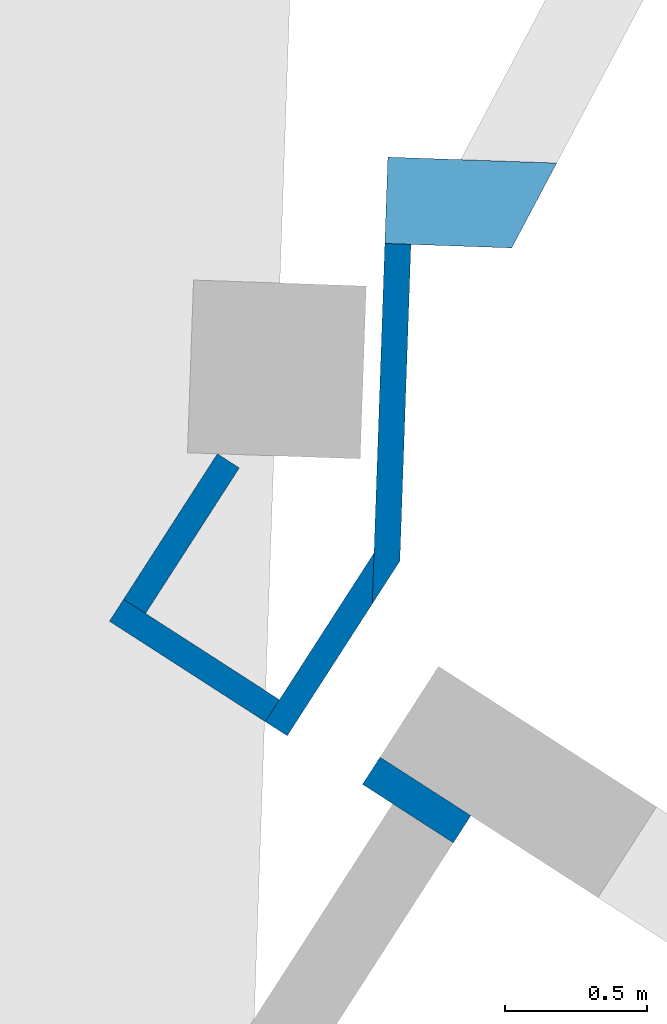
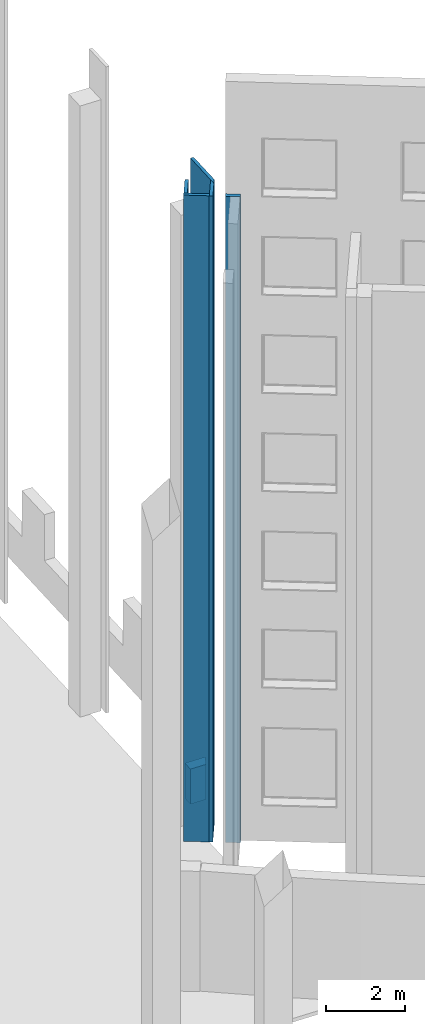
# One storey, part 27 of 44: 6 walls.
"""IFC2X3 building model written with IfcOpenShell, lengths in feet."""

from ifc_helpers import new_model, entity, si_unit, converted_unit, derived_unit, direction, frame, frame_2d, origin, place, context, subcontext, project, spatial, polyline, rectangle, outline, extrude, material, layer, layer_set, layer_usage, type_object, element, save


model = new_model("IFC2X3")

# Units and contexts
model_context = context("Model", 3, precision=0.0001, world=origin(), true_north=direction((0.999390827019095, 0.0348994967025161)))
body_context = subcontext(model_context, "Body", "Model", "MODEL_VIEW")
ifc_project = project(units=[converted_unit("LENGTHUNIT", "FOOT", entity("IfcRatioMeasure", 0.3048), si_unit("LENGTHUNIT", "METRE"), dimensions=[1, 0, 0, 0, 0, 0, 0]), converted_unit("AREAUNIT", "SQUARE FOOT", entity("IfcRatioMeasure", 0.09290304), si_unit("AREAUNIT", "SQUARE_METRE"), dimensions=[2, 0, 0, 0, 0, 0, 0]), converted_unit("VOLUMEUNIT", "CUBIC FOOT", entity("IfcRatioMeasure", 0.028316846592), si_unit("VOLUMEUNIT", "CUBIC_METRE"), dimensions=[3, 0, 0, 0, 0, 0, 0]), converted_unit("PLANEANGLEUNIT", "DEGREE", entity("IfcRatioMeasure", 0.0174532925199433), si_unit("PLANEANGLEUNIT", "RADIAN"), dimensions=[0, 0, 0, 0, 0, 0, 0]), si_unit("MASSUNIT", "GRAM", prefix="KILO"), si_unit("TIMEUNIT", "SECOND"), si_unit("FREQUENCYUNIT", "HERTZ"), si_unit("THERMODYNAMICTEMPERATUREUNIT", "DEGREE_CELSIUS"), derived_unit("THERMALTRANSMITTANCEUNIT", [(si_unit("MASSUNIT", "GRAM", prefix="KILO"), 1), (si_unit("THERMODYNAMICTEMPERATUREUNIT", "KELVIN"), -1), (si_unit("TIMEUNIT", "SECOND"), -3)]), derived_unit("VOLUMETRICFLOWRATEUNIT", [(si_unit("LENGTHUNIT", "METRE"), 3), (si_unit("TIMEUNIT", "SECOND"), -1)]), si_unit("ELECTRICCURRENTUNIT", "AMPERE"), si_unit("ELECTRICVOLTAGEUNIT", "VOLT"), si_unit("POWERUNIT", "WATT"), si_unit("FORCEUNIT", "NEWTON"), si_unit("ILLUMINANCEUNIT", "LUX"), si_unit("LUMINOUSFLUXUNIT", "LUMEN"), si_unit("LUMINOUSINTENSITYUNIT", "CANDELA"), derived_unit("USERDEFINED", [(si_unit("MASSUNIT", "GRAM", prefix="KILO"), -1), (si_unit("LENGTHUNIT", "METRE"), -2), (si_unit("TIMEUNIT", "SECOND"), 3), (si_unit("LUMINOUSFLUXUNIT", "LUMEN"), 1)]), derived_unit("LINEARVELOCITYUNIT", [(si_unit("LENGTHUNIT", "METRE"), 1), (si_unit("TIMEUNIT", "SECOND"), -1)]), si_unit("PRESSUREUNIT", "PASCAL"), derived_unit("USERDEFINED", [(si_unit("LENGTHUNIT", "METRE"), -2), (si_unit("MASSUNIT", "GRAM", prefix="KILO"), 1), (si_unit("TIMEUNIT", "SECOND"), -2)])], contexts=[model_context])

# Site, building, storey
site_placement = place(None, frame((892.518771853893, 322.38689265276, 0.00393700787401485), z_axis=(0.0, 0.0, 1.0), x_axis=(0.0348994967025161, 0.999390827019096, 0.0)))
site = spatial("IfcSite", under=ifc_project, at=site_placement, Name="Default", CompositionType="ELEMENT")
building_placement = place(site_placement, origin())
building = spatial("IfcBuilding", under=site, at=building_placement, CompositionType="ELEMENT")
storey_placement = place(building_placement, frame((0.0, 0.0, 544.75)))
storey = spatial("IfcBuildingStorey", under=building, at=storey_placement, Name="Exist Garage - Ground Level", CompositionType="ELEMENT", Elevation=544.75)

# Walls
ifc_material_1 = material(Name="Masonry - Brick")
ifc_layer_1 = layer(ifc_material_1, 0.302083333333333)
ifc_layer_set_1 = layer_set([ifc_layer_1], Name="Basic Wall:(Existing) Exterior - Brick Veneer 3 5/8\"")
ifc_layer_usage_1 = layer_usage(ifc_layer_set_1, "AXIS2", "POSITIVE", -0.151041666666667)
wall_type_1 = type_object("IfcWallType", Name="Basic Wall:(Existing) Exterior - Brick Veneer 3 5/8\"", PredefinedType="STANDARD", material=ifc_layer_set_1)
wall_1_placement = place(storey_placement, frame((-142.746190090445, 235.41499514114, 0.0)))
element("IfcWallStandardCase", 1, at=wall_1_placement, inside=storey, type_object=wall_type_1, material=ifc_layer_usage_1, Name="Basic Wall:(Existing) Exterior - Brick Veneer 3 5/8\"", ObjectType="Basic Wall:(Existing) Exterior - Brick Veneer 3 5/8\"", context=body_context, shape_type="SweptSolid", body=[
    extrude(outline(polyline([(4.17344432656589, -0.151041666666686), (4.17344432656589, 0.151041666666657), (0.589981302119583, 0.151041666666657), (0.0, 0.151041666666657), (0.506777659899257, -0.151041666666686), (4.17344432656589, -0.151041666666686)])), origin(), (0.0, 0.0, 1.0), 65.8125),
])
ifc_layer_usage_2 = layer_usage(ifc_layer_set_1, "AXIS2", "POSITIVE", -0.151041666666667)
wall_2_placement = place(storey_placement, frame((-144.228978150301, 236.625746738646, 0.0), z_axis=(0.0, 0.0, 1.0), x_axis=(0.858972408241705, -0.512021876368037, 0.0)))
element("IfcWallStandardCase", 2, at=wall_2_placement, inside=storey, type_object=wall_type_1, material=ifc_layer_usage_2, Name="Basic Wall:(Existing) Exterior - Brick Veneer 3 5/8\"", ObjectType="Basic Wall:(Existing) Exterior - Brick Veneer 3 5/8\"", context=body_context, shape_type="SweptSolid", body=[
    extrude(outline(polyline([(1.81626869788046, -0.151041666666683), (2.32304635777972, 0.151041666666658), (0.302083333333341, 0.151041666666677), (0.0, 0.151041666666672), (0.0, -0.151041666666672), (1.81626869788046, -0.151041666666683)])), origin(), (0.0, 0.0, 1.0), 65.8125),
])
ifc_layer_usage_3 = layer_usage(ifc_layer_set_1, "AXIS2", "NEGATIVE", 0.151041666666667)
wall_3_placement = place(storey_placement, frame((-144.021900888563, 236.678150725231, 0.0), z_axis=(0.0, 0.0, 1.0), x_axis=(0.512021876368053, 0.858972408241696, 0.0)))
element("IfcWallStandardCase", 3, at=wall_3_placement, inside=storey, type_object=wall_type_1, material=ifc_layer_usage_3, Name="Basic Wall:(Existing) Exterior - Brick Veneer 3 5/8\"", ObjectType="Basic Wall:(Existing) Exterior - Brick Veneer 3 5/8\"", context=body_context, shape_type="SweptSolid", body=[
    extrude(rectangle(XDim=2.14583333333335, YDim=0.302083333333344, at=frame_2d((1.07291666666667, -6.68909372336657e-15), x_axis=(-1.0, 0.0))), origin(), (0.0, 0.0, 1.0), 65.8125),
])
ifc_layer_usage_4 = layer_usage(ifc_layer_set_1, "AXIS2", "NEGATIVE", 0.151041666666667)
wall_4_placement = place(storey_placement, frame((-142.870783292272, 238.314285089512, 0.0), z_axis=(0.0, 0.0, 1.0), x_axis=(0.858972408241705, -0.512021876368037, 0.0)))
element("IfcWallStandardCase", 4, at=wall_4_placement, inside=storey, type_object=wall_type_1, material=ifc_layer_usage_4, Name="Basic Wall:(Existing) Exterior - Brick Veneer 3 5/8\"", ObjectType="Basic Wall:(Existing) Exterior - Brick Veneer 3 5/8\"", context=body_context, shape_type="SweptSolid", body=[
    extrude(rectangle(XDim=2.00320857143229, YDim=0.302083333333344, at=frame_2d((1.00160428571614, -2.52575738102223e-15), x_axis=(-1.0, 0.0))), origin(), (0.0, 0.0, 1.0), 65.8125),
])
ifc_layer_2 = layer(ifc_material_1, 0.302083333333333)
ifc_material_2 = material(Name="Insulation / Thermal Barriers - Rigid insulation")
ifc_layer_3 = layer(ifc_material_2, 0.0625)
ifc_material_3 = material(Name="Masonry - Concrete Masonry Units")
ifc_layer_4 = layer(ifc_material_3, 0.635416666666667)
ifc_layer_set_2 = layer_set([ifc_layer_2, ifc_layer_3, ifc_layer_4], Name="Basic Wall:(existing) Exterior - Brick on CMU - 1'-0\"")
ifc_layer_usage_5 = layer_usage(ifc_layer_set_2, "AXIS2", "POSITIVE", -0.5)
wall_type_2 = type_object("IfcWallType", Name="Basic Wall:(existing) Exterior - Brick on CMU - 1'-0\"", PredefinedType="STANDARD", material=ifc_layer_set_2)
wall_5_placement = place(storey_placement, frame((-138.072745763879, 235.566036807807, 0.0), z_axis=(0.0, 0.0, 1.0), x_axis=(0.0, -1.0, 0.0)))
element("IfcWallStandardCase", 5, at=wall_5_placement, inside=storey, type_object=wall_type_2, material=ifc_layer_usage_5, Name="Basic Wall:(existing) Exterior - Brick on CMU - 1'-0\"", ObjectType="Basic Wall:(existing) Exterior - Brick on CMU - 1'-0\"", context=body_context, shape_type="SweptSolid", body=[
    extrude(outline(polyline([(1.46875000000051, -0.5), (1.95523648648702, 0.5), (0.84318023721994, 0.5), (0.0, 0.5), (0.0, -0.5), (1.46875000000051, -0.5)])), origin(), (0.0, 0.0, 1.0), 3.580078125),
])
ifc_layer_5 = layer(ifc_material_1, 0.302083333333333)
ifc_material_4 = material(Name="Misc. Air Layers - Air Space")
ifc_layer_6 = layer(ifc_material_4, 0.114583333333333)
ifc_material_5 = material(Name="Concrete - Cast-in-Place Concrete_hatch surface")
ifc_layer_7 = layer(ifc_material_5, 0.833333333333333)
ifc_layer_set_3 = layer_set([ifc_layer_5, ifc_layer_6, ifc_layer_7], Name="Basic Wall:(existing)Exterior - Brick on Conc - 1'-3\"")
ifc_layer_usage_6 = layer_usage(ifc_layer_set_3, "AXIS2", "POSITIVE", -0.625)
wall_type_3 = type_object("IfcWallType", Name="Basic Wall:(existing)Exterior - Brick on Conc - 1'-3\"", PredefinedType="STANDARD", material=ifc_layer_set_3)
wall_6_placement = place(storey_placement, frame((-144.835523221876, 234.877220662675, 0.0), z_axis=(0.0, 0.0, 1.0), x_axis=(-0.858972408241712, 0.512021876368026, 0.0)))
element("IfcWallStandardCase", 6, at=wall_6_placement, inside=storey, type_object=wall_type_3, material=ifc_layer_usage_6, Name="Basic Wall:(existing)Exterior - Brick on Conc - 1'-3\"", ObjectType="Basic Wall:(existing)Exterior - Brick on Conc - 1'-3\"", context=body_context, shape_type="SweptSolid", body=[
    extrude(rectangle(XDim=0.374278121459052, YDim=1.25, at=frame_2d((0.187139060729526, 7.38298311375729e-15), x_axis=(-1.0, 0.0))), origin(), (0.0, 0.0, 1.0), 65.8125),
])

save(model, "model.ifc")
